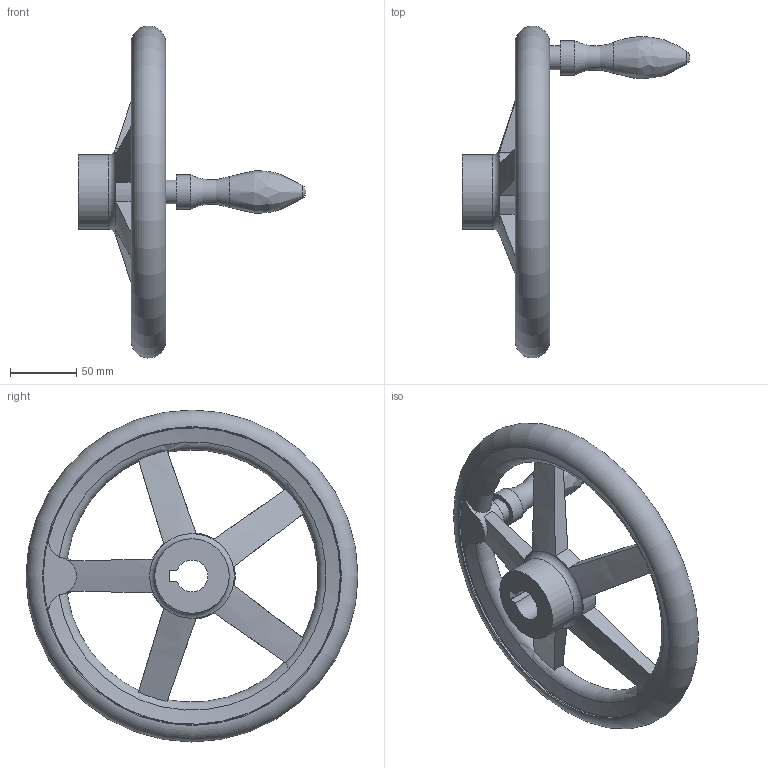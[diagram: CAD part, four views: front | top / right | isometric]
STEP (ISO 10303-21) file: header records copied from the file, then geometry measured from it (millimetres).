
FILE_DESCRIPTION( ( 'STEP AP203' ), '1' );
FILE_NAME( 'C:/Temp/Ganter_Step_05_03_2020/data/1_3/gn_950_1/gn_950_1_k/gn_950_1_k_d/Handwheel GN 950.1-GG-250-K24-D.stp', '2020-03-05T10:32:38', ( 'License CC BY-ND 4.0' ), ( 'CADENAS' ), ' ', 'PARTsolutions', ' ' );
FILE_SCHEMA( ( 'CONFIG_CONTROL_DESIGN' ) );
Length unit declared in the file: millimetre
Products named in the file (1): _Handwheel GN 950.1-GG-250-K24-D
Bounding box: 171.5 x 249.93 x 249.93 mm (x, y, z)
Volume: 612091.8 mm3; surface area: 108527.9 mm2
Topology: 1 solids, 1 shells, 56 faces, 162 edges, 104 vertices
Faces by surface type: cylinder 19, plane 18, torus 13, cone 4, bspline 1, sphere 1
Full cylindrical faces by diameter (mm): 18 x1, 26 x1, 56 x2, 224 x2
Entity records: 2247 total; most frequent: CARTESIAN_POINT 870, ORIENTED_EDGE 276, DIRECTION 256, EDGE_CURVE 138, AXIS2_PLACEMENT_3D 114, VERTEX_POINT 100, EDGE_LOOP 82, FACE_OUTER_BOUND 71
